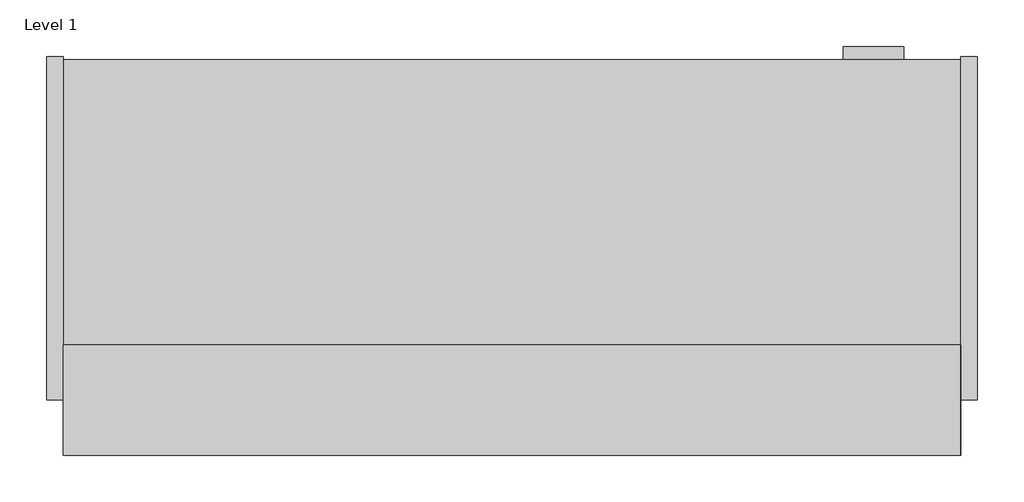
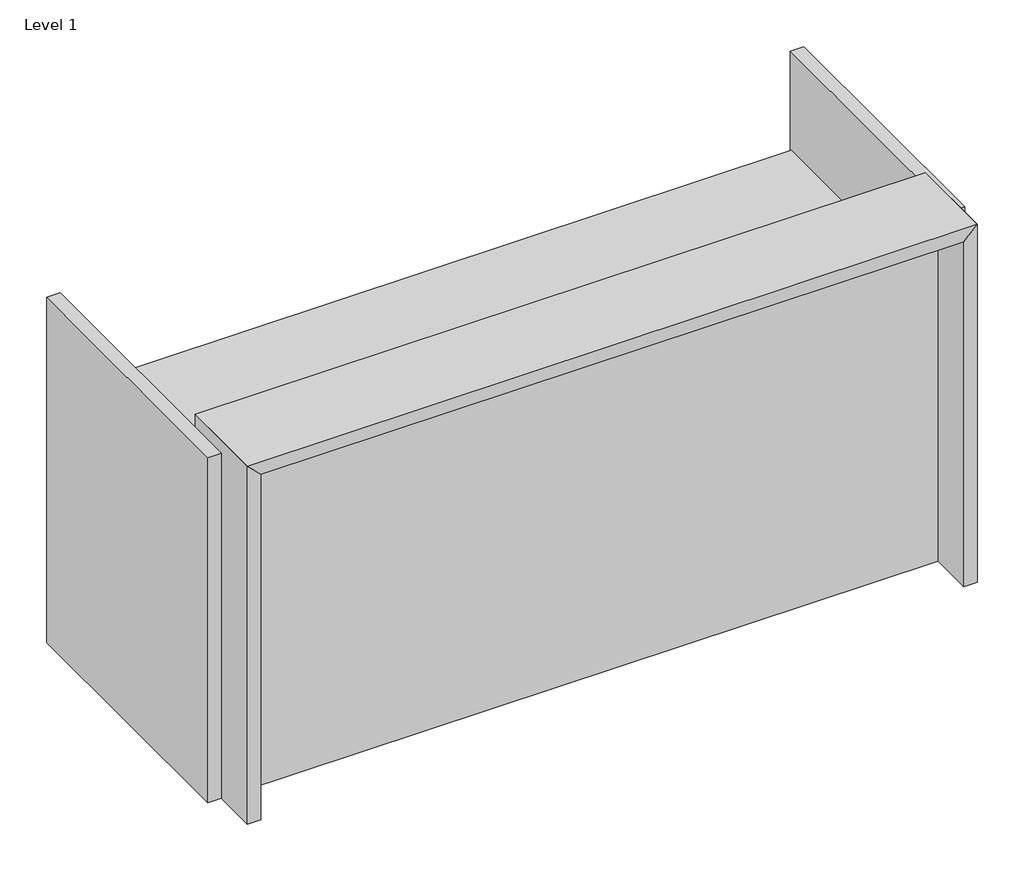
# One storey: 7 proxies.
"""IFC4 building model written with IfcOpenShell, lengths in millimetres."""

from ifc_helpers import new_model, si_unit, origin, place, context, project, spatial, transform, mapped, element, save
from components import generic_models_cd152bde, generic_models_754e1a55, generic_models_6f9cd0b2, generic_models_adff37a0, generic_models_96b29c8e, cantilever_bracket_10x18x_5_fb91e7c7

model = new_model("IFC4")

# Units and contexts
model_context = context("Model", 3, world=origin())
ifc_project = project(units=[si_unit("LENGTHUNIT", "METRE", prefix="MILLI")], contexts=[model_context])

# Site, building, storey
site = spatial("IfcSite", under=ifc_project)
building = spatial("IfcBuilding", under=site)
storey = spatial("IfcBuildingStorey", under=building, Name="Level 1", Elevation=0.0)

# Proxies
placement = place(None, origin())
generic_models_shape = generic_models_cd152bde(model_context)
element("IfcBuildingElementProxy", 1, Name="HAFELE^BUS BAR LIGHT_ALUMINUM EXTRUSION-LIGHT BAR (MOD LENGTH 78)", ObjectType="HAFELE^BUS BAR LIGHT_ALUMINUM EXTRUSION-LIGHT BAR (MOD LENGTH 78)", at=placement, inside=storey, context=model_context, shape_type="MappedRepresentation", body=[
    mapped(generic_models_shape, transform((2057.4, -834.15, 1028.7), x_axis=(0.0, 1.0, 0.0), y_axis=(-1.0, 0.0, 0.0), z_axis=(0.0, 0.0, 1.0))),
])
generic_models_2_shape = generic_models_754e1a55(model_context)
element("IfcBuildingElementProxy", 2, Name="FOUNDATION^PEDESTAL_LETTER BBF 26x29.75D-SOLID ASSEMBLY", ObjectType="FOUNDATION^PEDESTAL_LETTER BBF 26x29.75D-SOLID ASSEMBLY", at=placement, inside=storey, context=model_context, shape_type="MappedRepresentation", body=[
    mapped(generic_models_2_shape, transform((2095.5, -755.65, 38.1), x_axis=(-1.0, 0.0, 0.0), y_axis=(0.0, 0.0, 1.0), z_axis=(0.0, 1.0, 0.0))),
])
generic_models_3_shape = generic_models_6f9cd0b2(model_context)
element("IfcBuildingElementProxy", 3, Name="FOUNDATION^ADMIN 3_42x81 STRAIGHT FRONT TRANSACTION-PARTS SOLID", ObjectType="FOUNDATION^ADMIN 3_42x81 STRAIGHT FRONT TRANSACTION-PARTS SOLID", at=placement, inside=storey, context=model_context, shape_type="MappedRepresentation", body=[
    mapped(generic_models_3_shape, transform((38.1, -654.05, 0.0), x_axis=(1.0, 0.0, 0.0), y_axis=(0.0, 0.0, 1.0), z_axis=(0.0, -1.0, 0.0))),
])
generic_models_4_shape = generic_models_adff37a0(model_context)
element("IfcBuildingElementProxy", 4, Name="FOUNDATION^PEDESTAL_PLINTH-14.25x27.38", ObjectType="FOUNDATION^PEDESTAL_PLINTH-14.25x27.38", at=placement, inside=storey, context=model_context, shape_type="MappedRepresentation", body=[
    mapped(generic_models_4_shape, transform((1733.55, -755.65, 0.0), x_axis=(1.0, 0.0, 0.0), y_axis=(0.0, 0.0, 1.0), z_axis=(0.0, -1.0, 0.0))),
])
generic_models_5_shape = generic_models_96b29c8e(model_context)
element("IfcBuildingElementProxy", 5, Name="FOUNDATION^ADMIN 3_STRAIGHT-PARTS SOLID", ObjectType="FOUNDATION^ADMIN 3_STRAIGHT-PARTS SOLID", at=placement, inside=storey, context=model_context, shape_type="MappedRepresentation", body=[
    mapped(generic_models_5_shape, transform((2095.5, -781.05, 0.0), x_axis=(1.0, 0.0, 0.0), y_axis=(0.0, 0.0, 1.0), z_axis=(0.0, -1.0, 0.0))),
])
cantilever_bracket_10x18x_5_shape = cantilever_bracket_10x18x_5_fb91e7c7(model_context)
element("IfcBuildingElementProxy", 6, Name="CANTILEVER BRACKET-10x18x.5", ObjectType="CANTILEVER BRACKET-10x18x.5", at=placement, inside=storey, context=model_context, shape_type="MappedRepresentation", body=[
    mapped(cantilever_bracket_10x18x_5_shape, transform((923.925, -755.65, 444.5), x_axis=(1.0, 0.0, 0.0), y_axis=(0.0, 0.0, 1.0), z_axis=(0.0, -1.0, 0.0))),
])
element("IfcBuildingElementProxy", 7, Name="CANTILEVER BRACKET-10x18x.5", ObjectType="CANTILEVER BRACKET-10x18x.5", at=placement, inside=storey, context=model_context, shape_type="MappedRepresentation", body=[
    mapped(cantilever_bracket_10x18x_5_shape, transform((152.4, -755.65, 444.5), x_axis=(1.0, 0.0, 0.0), y_axis=(0.0, 0.0, 1.0), z_axis=(0.0, -1.0, 0.0))),
])

save(model, "model.ifc")
